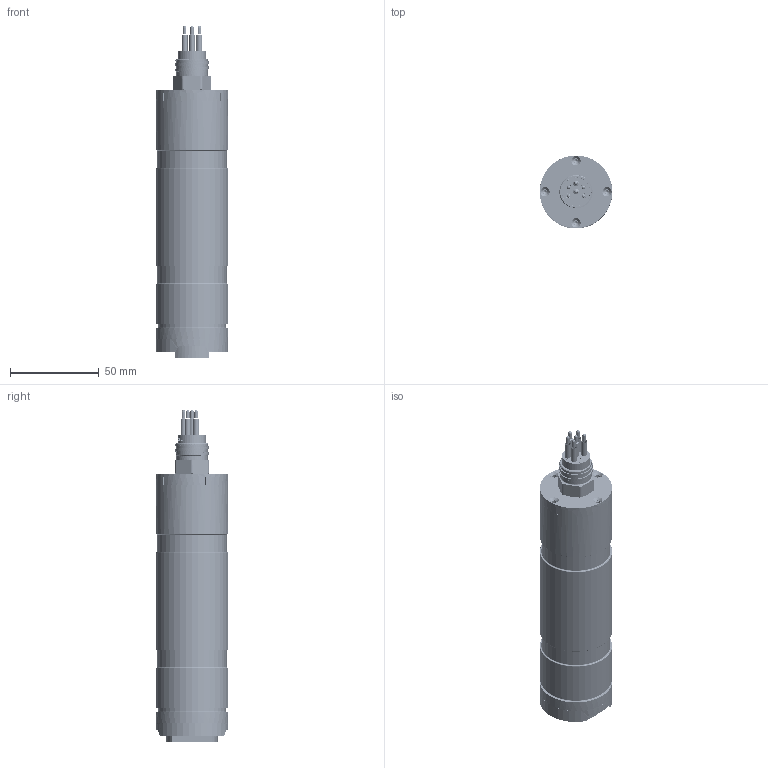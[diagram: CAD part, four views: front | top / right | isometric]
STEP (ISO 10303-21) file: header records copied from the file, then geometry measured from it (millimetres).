
FILE_DESCRIPTION(/* description */ (''),/* implementation_level */ '2;1');
FILE_NAME(/* name */ 'C:/Users/ANB/Downloads/OC-300 OCT22 v1.step',/* time_stamp */ '2022-10-11T10:31:44+01:00',/* author */ (''),/* organization */ (''),/* preprocessor_version */ 'ST-DEVELOPER v19',/* originating_system */ 'Autodesk Translation Framework v11.7.0.108',/* authorisation */ '');
FILE_SCHEMA (('AUTOMOTIVE_DESIGN { 1 0 10303 214 3 1 1 }'));
Products named in the file (67): OC-300 OCT22; TRDS - OC300; Internal Screws; DP Grub M4 20mm; DP Grub M4 20mm (3); DP Grub M4 20mm (4); DP Grub M4 20mm (9); DP Grub M3 8mm (2); DP Grub M4 20mm (11); DP Grub M4 20mm (1); DP Grub M3 8mm; DP Grub M4 20mm (13); DP Grub M4 20mm (8); DP Grub M4 20mm (14); DP Grub M4 20mm (10); DP Grub M3 8mm (3); DP Grub M4 20mm (15); DP Grub M3 8mm (1); DP Grub M4 20mm (6); DP Grub M4 20mm (12); DP Grub M4 20mm (5); DP Grub M4 20mm (7); DP Grub M4 20mm (2); DP Grub M4 20mm (17); DP Grub M4 20mm (16); Active Electrodes; Reference System ; ANB TRDS PCB; TRDS PCB & Screws; TRDS Assembled PCB1&2; TRDS PCB2; External Screws ; No.2 Self tapping ; No.2 Self tapping  (1); No.2 Self tapping  (2); No.2 Self tapping  (1) (1); FT5-15-01.0-TH_teminal; T-1M84-15-01.0; FS5 TDRS PCB; Component71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
Assembly tree (66 placements, depth 6):
  OC-300 OCT22
    TRDS - OC300
      Internal Screws
        DP Grub M4 20mm
        DP Grub M4 20mm (3)
        DP Grub M4 20mm (4)
        DP Grub M4 20mm (9)
        DP Grub M3 8mm (2)
        DP Grub M4 20mm (11)
        DP Grub M4 20mm (1)
        DP Grub M3 8mm
        DP Grub M4 20mm (13)
        DP Grub M4 20mm (8)
        DP Grub M4 20mm (14)
        DP Grub M4 20mm (10)
        DP Grub M3 8mm (3)
        DP Grub M4 20mm (15)
        DP Grub M3 8mm (1)
        DP Grub M4 20mm (6)
        DP Grub M4 20mm (12)
        DP Grub M4 20mm (5)
        DP Grub M4 20mm (7)
        DP Grub M4 20mm (2)
        DP Grub M4 20mm (17)
        DP Grub M4 20mm (16)
      Active Electrodes
      Reference System 
      ANB TRDS PCB
        TRDS PCB & Screws
          TRDS Assembled PCB1&2
            TRDS PCB2
          External Screws 
            No.2 Self tapping 
            No.2 Self tapping  (1)
            No.2 Self tapping  (2)
            No.2 Self tapping  (1) (1)
        FT5-15-01.0-TH_teminal
          T-1M84-15-01.0
    FS5 TDRS PCB
      Component71
      FS5-15-04.0-TH_socket
        C-304-15
      _CLM-113-02-L-D_socket (3)
        _C-13-02_pins (3)
    Interface PCB
      FTMH-113-02-L-DH_body (1)
        FTMH-113-02-L-DH_pins1 (1)
    MB -OC300
    ICNCC - OC300
    BE
    Component83
    Fasteners
      93655A092_Male-Female Threaded Hex Standoff (3)
      93655A092_Male-Female Threaded Hex Standoff (1) (2)
      92095A458_Button Head Hex Drive Screw (2) (1)
      92095A458_Button Head Hex Drive Screw (3)
      92095A458_Button Head Hex Drive Screw (1) (2)
      93655A092_Male-Female Threaded Hex Standoff (1) (1) (1)
      92095A458_Button Head Hex Drive Screw (1) (1) (1)
      93655A092_Male-Female Threaded Hex Standoff (2) (1)
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Bounding box: 41 x 41 x 187.55 mm (x, y, z)
Volume: 141548 mm3; surface area: 86279 mm2
Topology: 107 solids, 108 shells, 6767 faces, 18468 edges, 11975 vertices
Faces by surface type: plane 4615, cylinder 1395, cone 479, bspline 239, torus 29, sphere 10
Full cylindrical faces by diameter (mm): 0.5 x4, 0.73 x4, 0.737 x21, 0.83 x4, 1.32 x2, 1.332 x40, 1.45 x4, 1.5 x8, 1.575 x6, 1.9 x4, 1.91 x4, 1.915 x92, 1.986 x6, 2 x4, 2.075 x18, 2.175 x6, 2.184 x32, 2.286 x3, 2.3 x36, 2.5 x116, 2.529 x10, 2.58 x9, 2.6 x32, 2.75 x2, 2.8 x4, 3 x4, 3.086 x4, 3.1 x4, 3.175 x6, 3.332 x18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
Entity records: 263238 total; most frequent: CARTESIAN_POINT 91586, ORIENTED_EDGE 36872, DIRECTION 32910, EDGE_CURVE 18436, LINE 13812, VECTOR 13812, VERTEX_POINT 11975, AXIS2_PLACEMENT_3D 9549
